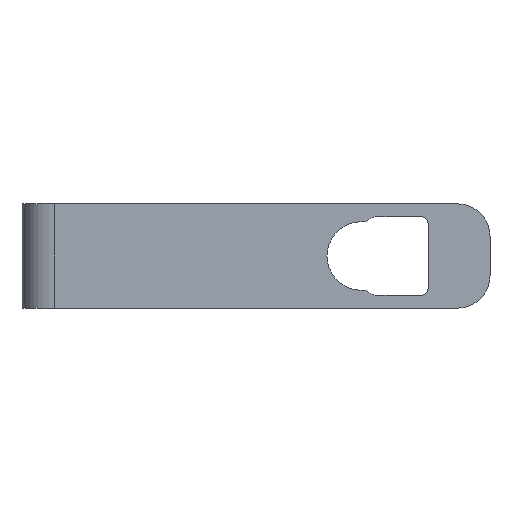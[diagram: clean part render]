
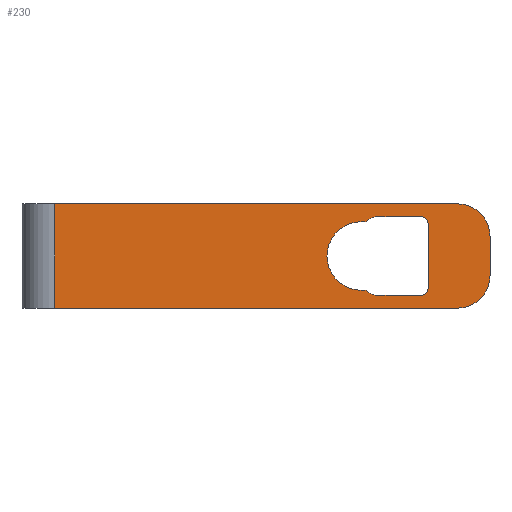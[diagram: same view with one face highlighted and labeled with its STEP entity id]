
A CAD part, front view. The second image highlights one B-rep face of the part: STEP entity #230.
In plain terms, the highlighted planar face has unit normal (0, -1, 0).
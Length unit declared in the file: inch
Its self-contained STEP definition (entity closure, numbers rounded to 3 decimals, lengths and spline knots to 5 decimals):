
#9 = VERTEX_POINT ( 'NONE', #106 ) ;
#33 = ORIENTED_EDGE ( 'NONE', *, *, #570, .T. ) ;
#60 = LINE ( 'NONE', #1029, #482 ) ;
#63 = ORIENTED_EDGE ( 'NONE', *, *, #673, .T. ) ;
#72 = DIRECTION ( 'NONE',  ( 0., 0., -1. ) ) ;
#82 = EDGE_CURVE ( 'NONE', #1179, #944, #1544, .T. ) ;
#83 = CARTESIAN_POINT ( 'NONE',  ( 0.99902, 0., -0.19685 ) ) ;
#96 = CIRCLE ( 'NONE', #1612, 0.19685 ) ;
#105 = CARTESIAN_POINT ( 'NONE',  ( 0.63484, 0., 0.20669 ) ) ;
#106 = CARTESIAN_POINT ( 'NONE',  ( 1.03839, 0., -0.19685 ) ) ;
#111 = CARTESIAN_POINT ( 'NONE',  ( 0.63484, 0., 0. ) ) ;
#160 = CARTESIAN_POINT ( 'NONE',  ( 1.4124, 0., 0.31496 ) ) ;
#206 = ORIENTED_EDGE ( 'NONE', *, *, #1106, .T. ) ;
#209 = VECTOR ( 'NONE', #704, 39.37008 ) ;
#222 = ORIENTED_EDGE ( 'NONE', *, *, #663, .T. ) ;
#230 = ADVANCED_FACE ( 'NONE', ( #435, #263 ), #979, .T. ) ;
#241 = CIRCLE ( 'NONE', #1464, 0.03937 ) ;
#256 = EDGE_CURVE ( 'NONE', #1179, #510, #801, .T. ) ;
#263 = FACE_OUTER_BOUND ( 'NONE', #1357, .T. ) ;
#279 = DIRECTION ( 'NONE',  ( -1., 0., 0. ) ) ;
#308 = CIRCLE ( 'NONE', #1941, 0.03937 ) ;
#322 = VERTEX_POINT ( 'NONE', #488 ) ;
#328 = CARTESIAN_POINT ( 'NONE',  ( 0.72343, 0., 0.1624 ) ) ;
#356 = DIRECTION ( 'NONE',  ( 0., 0., -1. ) ) ;
#383 = ORIENTED_EDGE ( 'NONE', *, *, #1877, .T. ) ;
#422 = ORIENTED_EDGE ( 'NONE', *, *, #668, .T. ) ;
#429 = EDGE_CURVE ( 'NONE', #828, #617, #604, .T. ) ;
#435 = FACE_BOUND ( 'NONE', #1971, .T. ) ;
#446 = DIRECTION ( 'NONE',  ( 0., -1., 0. ) ) ;
#454 = CARTESIAN_POINT ( 'NONE',  ( 1.21555, 0., -0.11811 ) ) ;
#457 = CARTESIAN_POINT ( 'NONE',  ( 0.99902, 0., 0.19685 ) ) ;
#480 = EDGE_CURVE ( 'NONE', #1181, #9, #60, .T. ) ;
#482 = VECTOR ( 'NONE', #861, 39.37008 ) ;
#488 = CARTESIAN_POINT ( 'NONE',  ( 0.99902, 0., 0.23622 ) ) ;
#489 = DIRECTION ( 'NONE',  ( 0., 0., -1. ) ) ;
#498 = CARTESIAN_POINT ( 'NONE',  ( -1.4124, 0., -0.31496 ) ) ;
#510 = VERTEX_POINT ( 'NONE', #1982 ) ;
#556 = VECTOR ( 'NONE', #1458, 39.37008 ) ;
#569 = ORIENTED_EDGE ( 'NONE', *, *, #82, .F. ) ;
#570 = EDGE_CURVE ( 'NONE', #1912, #969, #1470, .T. ) ;
#573 = CARTESIAN_POINT ( 'NONE',  ( 0.63484, 0., 0.20669 ) ) ;
#604 = LINE ( 'NONE', #1956, #209 ) ;
#613 = DIRECTION ( 'NONE',  ( 0., 0., 1. ) ) ;
#615 = CIRCLE ( 'NONE', #1832, 0.20669 ) ;
#617 = VERTEX_POINT ( 'NONE', #1539 ) ;
#620 = DIRECTION ( 'NONE',  ( 0., -1., 0. ) ) ;
#648 = DIRECTION ( 'NONE',  ( -1., 0., 0. ) ) ;
#650 = DIRECTION ( 'NONE',  ( 0., 0., -1. ) ) ;
#653 = CARTESIAN_POINT ( 'NONE',  ( 0.72343, 0., 0.23622 ) ) ;
#663 = EDGE_CURVE ( 'NONE', #2055, #2010, #1342, .T. ) ;
#668 = EDGE_CURVE ( 'NONE', #322, #1181, #308, .T. ) ;
#671 = CARTESIAN_POINT ( 'NONE',  ( -1.21555, 0., -0.31496 ) ) ;
#673 = EDGE_CURVE ( 'NONE', #2010, #828, #728, .T. ) ;
#677 = CARTESIAN_POINT ( 'NONE',  ( 0.66437, 0., -0.20669 ) ) ;
#704 = DIRECTION ( 'NONE',  ( -1., 0., 0. ) ) ;
#711 = CIRCLE ( 'NONE', #1454, 0.07382 ) ;
#728 = CIRCLE ( 'NONE', #1690, 0.07382 ) ;
#745 = DIRECTION ( 'NONE',  ( 1., 0., 0. ) ) ;
#748 = CARTESIAN_POINT ( 'NONE',  ( 0.99902, 0., 0.23622 ) ) ;
#749 = DIRECTION ( 'NONE',  ( 0., 1., 0. ) ) ;
#758 = DIRECTION ( 'NONE',  ( 0., 1., 0. ) ) ;
#782 = ORIENTED_EDGE ( 'NONE', *, *, #1499, .T. ) ;
#787 = EDGE_CURVE ( 'NONE', #1736, #809, #982, .T. ) ;
#801 = LINE ( 'NONE', #671, #1767 ) ;
#809 = VERTEX_POINT ( 'NONE', #1611 ) ;
#828 = VERTEX_POINT ( 'NONE', #677 ) ;
#856 = VECTOR ( 'NONE', #1067, 39.37008 ) ;
#861 = DIRECTION ( 'NONE',  ( 0., 0., -1. ) ) ;
#875 = ORIENTED_EDGE ( 'NONE', *, *, #787, .F. ) ;
#923 = CARTESIAN_POINT ( 'NONE',  ( 0.72343, 0., -0.23622 ) ) ;
#927 = CARTESIAN_POINT ( 'NONE',  ( 0.72343, 0., -0.23622 ) ) ;
#944 = VERTEX_POINT ( 'NONE', #1967 ) ;
#968 = DIRECTION ( 'NONE',  ( 0., 1., 0. ) ) ;
#969 = VERTEX_POINT ( 'NONE', #1020 ) ;
#979 = PLANE ( 'NONE',  #1801 ) ;
#982 = LINE ( 'NONE', #160, #556 ) ;
#1002 = EDGE_CURVE ( 'NONE', #617, #1912, #615, .T. ) ;
#1006 = ORIENTED_EDGE ( 'NONE', *, *, #1002, .T. ) ;
#1020 = CARTESIAN_POINT ( 'NONE',  ( 0.66437, 0., 0.20669 ) ) ;
#1029 = CARTESIAN_POINT ( 'NONE',  ( 1.03839, 0., -0.19685 ) ) ;
#1058 = ORIENTED_EDGE ( 'NONE', *, *, #1207, .F. ) ;
#1067 = DIRECTION ( 'NONE',  ( 1., 0., 0. ) ) ;
#1071 = DIRECTION ( 'NONE',  ( 0., 0., -1. ) ) ;
#1074 = VECTOR ( 'NONE', #745, 39.37008 ) ;
#1080 = DIRECTION ( 'NONE',  ( 0., 0., -1. ) ) ;
#1089 = CARTESIAN_POINT ( 'NONE',  ( 0.72343, 0., -0.1624 ) ) ;
#1093 = EDGE_CURVE ( 'NONE', #1736, #944, #96, .T. ) ;
#1096 = DIRECTION ( 'NONE',  ( 1., 0., 0. ) ) ;
#1106 = EDGE_CURVE ( 'NONE', #1229, #809, #1299, .T. ) ;
#1114 = AXIS2_PLACEMENT_3D ( 'NONE', #454, #446, #1080 ) ;
#1134 = CARTESIAN_POINT ( 'NONE',  ( 0., 0., 0. ) ) ;
#1148 = DIRECTION ( 'NONE',  ( 0., -1., 0. ) ) ;
#1179 = VERTEX_POINT ( 'NONE', #1710 ) ;
#1181 = VERTEX_POINT ( 'NONE', #1915 ) ;
#1195 = VERTEX_POINT ( 'NONE', #653 ) ;
#1207 = EDGE_CURVE ( 'NONE', #1229, #510, #1773, .T. ) ;
#1229 = VERTEX_POINT ( 'NONE', #1759 ) ;
#1299 = CIRCLE ( 'NONE', #1114, 0.19685 ) ;
#1321 = LINE ( 'NONE', #748, #856 ) ;
#1342 = LINE ( 'NONE', #923, #1519 ) ;
#1357 = EDGE_LOOP ( 'NONE', ( #569, #1744, #1058, #206, #875, #1692 ) ) ;
#1397 = DIRECTION ( 'NONE',  ( 0., 1., 0. ) ) ;
#1408 = ORIENTED_EDGE ( 'NONE', *, *, #1617, .T. ) ;
#1454 = AXIS2_PLACEMENT_3D ( 'NONE', #328, #968, #489 ) ;
#1458 = DIRECTION ( 'NONE',  ( 0., 0., -1. ) ) ;
#1464 = AXIS2_PLACEMENT_3D ( 'NONE', #83, #1487, #72 ) ;
#1470 = LINE ( 'NONE', #573, #1074 ) ;
#1487 = DIRECTION ( 'NONE',  ( 0., 1., 0. ) ) ;
#1490 = CARTESIAN_POINT ( 'NONE',  ( 1.4124, 0., 0.11811 ) ) ;
#1499 = EDGE_CURVE ( 'NONE', #9, #2055, #241, .T. ) ;
#1519 = VECTOR ( 'NONE', #279, 39.37008 ) ;
#1539 = CARTESIAN_POINT ( 'NONE',  ( 0.63484, 0., -0.20669 ) ) ;
#1544 = LINE ( 'NONE', #1587, #1820 ) ;
#1548 = CARTESIAN_POINT ( 'NONE',  ( 0.99902, 0., -0.23622 ) ) ;
#1587 = CARTESIAN_POINT ( 'NONE',  ( -1.4124, 0., 0.31496 ) ) ;
#1611 = CARTESIAN_POINT ( 'NONE',  ( 1.4124, 0., -0.11811 ) ) ;
#1612 = AXIS2_PLACEMENT_3D ( 'NONE', #1737, #620, #2027 ) ;
#1617 = EDGE_CURVE ( 'NONE', #969, #1195, #711, .T. ) ;
#1657 = ORIENTED_EDGE ( 'NONE', *, *, #480, .T. ) ;
#1668 = DIRECTION ( 'NONE',  ( 0., 0., 1. ) ) ;
#1678 = VECTOR ( 'NONE', #648, 39.37008 ) ;
#1690 = AXIS2_PLACEMENT_3D ( 'NONE', #1089, #758, #613 ) ;
#1692 = ORIENTED_EDGE ( 'NONE', *, *, #1093, .T. ) ;
#1710 = CARTESIAN_POINT ( 'NONE',  ( -1.21555, 0., 0.31496 ) ) ;
#1736 = VERTEX_POINT ( 'NONE', #1490 ) ;
#1737 = CARTESIAN_POINT ( 'NONE',  ( 1.21555, 0., 0.11811 ) ) ;
#1744 = ORIENTED_EDGE ( 'NONE', *, *, #256, .T. ) ;
#1759 = CARTESIAN_POINT ( 'NONE',  ( 1.21555, 0., -0.31496 ) ) ;
#1767 = VECTOR ( 'NONE', #650, 39.37008 ) ;
#1773 = LINE ( 'NONE', #498, #1678 ) ;
#1801 = AXIS2_PLACEMENT_3D ( 'NONE', #1134, #1148, #356 ) ;
#1820 = VECTOR ( 'NONE', #1096, 39.37008 ) ;
#1832 = AXIS2_PLACEMENT_3D ( 'NONE', #111, #749, #1668 ) ;
#1877 = EDGE_CURVE ( 'NONE', #1195, #322, #1321, .T. ) ;
#1912 = VERTEX_POINT ( 'NONE', #105 ) ;
#1915 = CARTESIAN_POINT ( 'NONE',  ( 1.03839, 0., 0.19685 ) ) ;
#1919 = ORIENTED_EDGE ( 'NONE', *, *, #429, .T. ) ;
#1941 = AXIS2_PLACEMENT_3D ( 'NONE', #457, #1397, #1071 ) ;
#1956 = CARTESIAN_POINT ( 'NONE',  ( 0.66437, 0., -0.20669 ) ) ;
#1967 = CARTESIAN_POINT ( 'NONE',  ( 1.21555, 0., 0.31496 ) ) ;
#1971 = EDGE_LOOP ( 'NONE', ( #63, #1919, #1006, #33, #1408, #383, #422, #1657, #782, #222 ) ) ;
#1982 = CARTESIAN_POINT ( 'NONE',  ( -1.21555, 0., -0.31496 ) ) ;
#2010 = VERTEX_POINT ( 'NONE', #927 ) ;
#2027 = DIRECTION ( 'NONE',  ( 0., 0., -1. ) ) ;
#2055 = VERTEX_POINT ( 'NONE', #1548 ) ;
